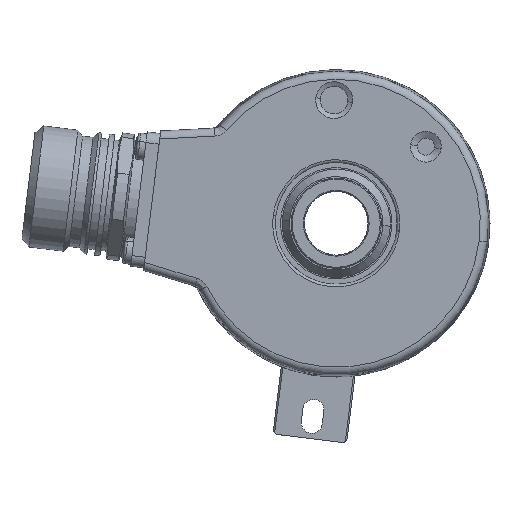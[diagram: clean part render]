
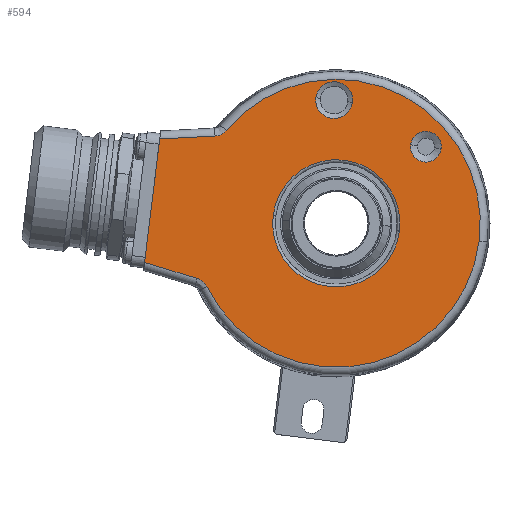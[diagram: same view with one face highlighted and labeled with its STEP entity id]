
A CAD part, left-side view. The second image highlights one B-rep face of the part: STEP entity #594.
In plain terms, the highlighted planar face has unit normal (-1, 0, 0).
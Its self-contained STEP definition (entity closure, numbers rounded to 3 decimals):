
#593 = EDGE_CURVE ( 'NONE', #5527, #5517, #6990, .T. ) ;
#594 = ADVANCED_FACE ( 'NONE', ( #6982, #6997, #6996, #6995 ), #7111, .F. ) ;
#595 = EDGE_LOOP ( 'NONE', ( #601, #602 ) ) ;
#601 = ORIENTED_EDGE ( 'NONE', *, *, #5538, .T. ) ;
#602 = ORIENTED_EDGE ( 'NONE', *, *, #593, .T. ) ;
#603 = EDGE_LOOP ( 'NONE', ( #604, #837 ) ) ;
#604 = ORIENTED_EDGE ( 'NONE', *, *, #5045, .T. ) ;
#664 = EDGE_LOOP ( 'NONE', ( #665, #666, #667, #669, #670, #671, #672 ) ) ;
#665 = ORIENTED_EDGE ( 'NONE', *, *, #1430, .F. ) ;
#666 = ORIENTED_EDGE ( 'NONE', *, *, #5097, .T. ) ;
#667 = ORIENTED_EDGE ( 'NONE', *, *, #668, .F. ) ;
#668 = EDGE_CURVE ( 'NONE', #1447, #5089, #7332, .T. ) ;
#669 = ORIENTED_EDGE ( 'NONE', *, *, #1352, .T. ) ;
#670 = ORIENTED_EDGE ( 'NONE', *, *, #1351, .F. ) ;
#671 = ORIENTED_EDGE ( 'NONE', *, *, #1416, .T. ) ;
#672 = ORIENTED_EDGE ( 'NONE', *, *, #6920, .T. ) ;
#720 = EDGE_LOOP ( 'NONE', ( #721, #722 ) ) ;
#721 = ORIENTED_EDGE ( 'NONE', *, *, #6923, .T. ) ;
#722 = ORIENTED_EDGE ( 'NONE', *, *, #734, .T. ) ;
#725 = EDGE_CURVE ( 'NONE', #5041, #5046, #20706, .T. ) ;
#734 = EDGE_CURVE ( 'NONE', #6911, #6924, #20755, .T. ) ;
#837 = ORIENTED_EDGE ( 'NONE', *, *, #725, .T. ) ;
#1349 = VERTEX_POINT ( 'NONE', #12530 ) ;
#1351 = EDGE_CURVE ( 'NONE', #1349, #1386, #12528, .T. ) ;
#1352 = EDGE_CURVE ( 'NONE', #1447, #1386, #12529, .T. ) ;
#1386 = VERTEX_POINT ( 'NONE', #12679 ) ;
#1416 = EDGE_CURVE ( 'NONE', #1349, #6921, #12789, .T. ) ;
#1430 = EDGE_CURVE ( 'NONE', #6943, #6933, #12804, .T. ) ;
#1447 = VERTEX_POINT ( 'NONE', #12865 ) ;
#5041 = VERTEX_POINT ( 'NONE', #17821 ) ;
#5045 = EDGE_CURVE ( 'NONE', #5046, #5041, #17820, .T. ) ;
#5046 = VERTEX_POINT ( 'NONE', #17815 ) ;
#5089 = VERTEX_POINT ( 'NONE', #17947 ) ;
#5097 = EDGE_CURVE ( 'NONE', #6943, #5089, #17985, .T. ) ;
#5517 = VERTEX_POINT ( 'NONE', #19336 ) ;
#5527 = VERTEX_POINT ( 'NONE', #19377 ) ;
#5538 = EDGE_CURVE ( 'NONE', #5517, #5527, #19396, .T. ) ;
#6911 = VERTEX_POINT ( 'NONE', #10403 ) ;
#6920 = EDGE_CURVE ( 'NONE', #6921, #6933, #10465, .T. ) ;
#6921 = VERTEX_POINT ( 'NONE', #10460 ) ;
#6923 = EDGE_CURVE ( 'NONE', #6924, #6911, #10515, .T. ) ;
#6924 = VERTEX_POINT ( 'NONE', #10510 ) ;
#6933 = VERTEX_POINT ( 'NONE', #10539 ) ;
#6943 = VERTEX_POINT ( 'NONE', #10528 ) ;
#6981 = AXIS2_PLACEMENT_3D ( 'NONE', #7000, #6999, #6998 ) ;
#6982 = FACE_BOUND ( 'NONE', #595, .T. ) ;
#6990 = CIRCLE ( 'NONE', #6981, 2.899 ) ;
#6995 = FACE_OUTER_BOUND ( 'NONE', #664, .T. ) ;
#6996 = FACE_BOUND ( 'NONE', #720, .T. ) ;
#6997 = FACE_BOUND ( 'NONE', #603, .T. ) ;
#6998 = DIRECTION ( 'NONE',  ( 0., -0.993, -0.122 ) ) ;
#6999 = DIRECTION ( 'NONE',  ( 1., 0., 0. ) ) ;
#7000 = CARTESIAN_POINT ( 'NONE',  ( -19., -16.919, 14.45 ) ) ;
#7098 = DIRECTION ( 'NONE',  ( 1., 0., 0. ) ) ;
#7099 = CARTESIAN_POINT ( 'NONE',  ( -19., 0., 0. ) ) ;
#7104 = DIRECTION ( 'NONE',  ( 0., -0.993, -0.122 ) ) ;
#7111 = PLANE ( 'NONE',  #7117 ) ;
#7117 = AXIS2_PLACEMENT_3D ( 'NONE', #7099, #7098, #7104 ) ;
#7329 = DIRECTION ( 'NONE',  ( 0., -0.122, 0.993 ) ) ;
#7330 = VECTOR ( 'NONE', #7329, 1000. ) ;
#7331 = CARTESIAN_POINT ( 'NONE',  ( -19., 36.354, -8.886 ) ) ;
#7332 = LINE ( 'NONE', #7331, #7330 ) ;
#10403 = CARTESIAN_POINT ( 'NONE',  ( -19., 11.911, 1.462 ) ) ;
#10460 = CARTESIAN_POINT ( 'NONE',  ( -19., -26.97, -3.312 ) ) ;
#10461 = DIRECTION ( 'NONE',  ( 0., -0.993, -0.122 ) ) ;
#10462 = DIRECTION ( 'NONE',  ( -1., 0., 0. ) ) ;
#10463 = CARTESIAN_POINT ( 'NONE',  ( -19., 0., 0. ) ) ;
#10464 = AXIS2_PLACEMENT_3D ( 'NONE', #10463, #10462, #10461 ) ;
#10465 = CIRCLE ( 'NONE', #10464, 27.173 ) ;
#10510 = CARTESIAN_POINT ( 'NONE',  ( -19., -11.911, -1.462 ) ) ;
#10511 = DIRECTION ( 'NONE',  ( 0., -0.993, -0.122 ) ) ;
#10512 = DIRECTION ( 'NONE',  ( 1., 0., 0. ) ) ;
#10513 = CARTESIAN_POINT ( 'NONE',  ( -19., 0., 0. ) ) ;
#10514 = AXIS2_PLACEMENT_3D ( 'NONE', #10513, #10512, #10511 ) ;
#10515 = CIRCLE ( 'NONE', #10514, 12. ) ;
#10528 = CARTESIAN_POINT ( 'NONE',  ( -19., 22.914, 16.45 ) ) ;
#10539 = CARTESIAN_POINT ( 'NONE',  ( -19., 20.777, 17.512 ) ) ;
#12528 = B_SPLINE_CURVE_WITH_KNOTS ( 'NONE', 3,
 ( #12580, #12579, #12578, #12577, #12576, #12575, #12574, #12573, #12572, #12571 ),
 .UNSPECIFIED., .F., .F.,
 ( 4, 2, 2, 2, 4 ),
 ( 0., 0.001, 0.001, 0.002, 0.002 ),
 .UNSPECIFIED. ) ;
#12529 = LINE ( 'NONE', #12583, #12582 ) ;
#12530 = CARTESIAN_POINT ( 'NONE',  ( -19., 24.396, -11.966 ) ) ;
#12571 = CARTESIAN_POINT ( 'NONE',  ( -19., 26.213, -10.418 ) ) ;
#12572 = CARTESIAN_POINT ( 'NONE',  ( -19., 26.016, -10.478 ) ) ;
#12573 = CARTESIAN_POINT ( 'NONE',  ( -19., 25.828, -10.557 ) ) ;
#12574 = CARTESIAN_POINT ( 'NONE',  ( -19., 25.471, -10.753 ) ) ;
#12575 = CARTESIAN_POINT ( 'NONE',  ( -19., 25.3, -10.87 ) ) ;
#12576 = CARTESIAN_POINT ( 'NONE',  ( -19., 24.989, -11.135 ) ) ;
#12577 = CARTESIAN_POINT ( 'NONE',  ( -19., 24.848, -11.282 ) ) ;
#12578 = CARTESIAN_POINT ( 'NONE',  ( -19., 24.597, -11.605 ) ) ;
#12579 = CARTESIAN_POINT ( 'NONE',  ( -19., 24.487, -11.781 ) ) ;
#12580 = CARTESIAN_POINT ( 'NONE',  ( -19., 24.396, -11.966 ) ) ;
#12581 = DIRECTION ( 'NONE',  ( 0., -0.956, -0.292 ) ) ;
#12582 = VECTOR ( 'NONE', #12581, 1000. ) ;
#12583 = CARTESIAN_POINT ( 'NONE',  ( -19., 25.556, -10.618 ) ) ;
#12679 = CARTESIAN_POINT ( 'NONE',  ( -19., 26.213, -10.418 ) ) ;
#12785 = DIRECTION ( 'NONE',  ( 0., -0.993, -0.122 ) ) ;
#12786 = DIRECTION ( 'NONE',  ( -1., 0., 0. ) ) ;
#12787 = CARTESIAN_POINT ( 'NONE',  ( -19., 0., 0. ) ) ;
#12788 = AXIS2_PLACEMENT_3D ( 'NONE', #12787, #12786, #12785 ) ;
#12789 = CIRCLE ( 'NONE', #12788, 27.173 ) ;
#12793 = CARTESIAN_POINT ( 'NONE',  ( -19., 20.777, 17.512 ) ) ;
#12794 = CARTESIAN_POINT ( 'NONE',  ( -19., 20.91, 17.355 ) ) ;
#12795 = CARTESIAN_POINT ( 'NONE',  ( -19., 21.056, 17.213 ) ) ;
#12796 = CARTESIAN_POINT ( 'NONE',  ( -19., 21.376, 16.962 ) ) ;
#12797 = CARTESIAN_POINT ( 'NONE',  ( -19., 21.552, 16.851 ) ) ;
#12798 = CARTESIAN_POINT ( 'NONE',  ( -19., 21.917, 16.669 ) ) ;
#12799 = CARTESIAN_POINT ( 'NONE',  ( -19., 22.108, 16.597 ) ) ;
#12800 = CARTESIAN_POINT ( 'NONE',  ( -19., 22.503, 16.493 ) ) ;
#12801 = CARTESIAN_POINT ( 'NONE',  ( -19., 22.708, 16.461 ) ) ;
#12802 = CARTESIAN_POINT ( 'NONE',  ( -19., 22.914, 16.45 ) ) ;
#12804 = B_SPLINE_CURVE_WITH_KNOTS ( 'NONE', 3,
 ( #12802, #12801, #12800, #12799, #12798, #12797, #12796, #12795, #12794, #12793 ),
 .UNSPECIFIED., .F., .F.,
 ( 4, 2, 2, 2, 4 ),
 ( 0., 0.001, 0.001, 0.002, 0.002 ),
 .UNSPECIFIED. ) ;
#12865 = CARTESIAN_POINT ( 'NONE',  ( -19., 36.168, -7.374 ) ) ;
#17815 = CARTESIAN_POINT ( 'NONE',  ( -19., 3.846, 23.669 ) ) ;
#17816 = DIRECTION ( 'NONE',  ( 0., -0.993, -0.122 ) ) ;
#17817 = DIRECTION ( 'NONE',  ( 1., 0., 0. ) ) ;
#17818 = CARTESIAN_POINT ( 'NONE',  ( -19., 0.406, 23.246 ) ) ;
#17819 = AXIS2_PLACEMENT_3D ( 'NONE', #17818, #17817, #17816 ) ;
#17820 = CIRCLE ( 'NONE', #17819, 3.466 ) ;
#17821 = CARTESIAN_POINT ( 'NONE',  ( -19., -3.034, 22.824 ) ) ;
#17947 = CARTESIAN_POINT ( 'NONE',  ( -19., 33.31, 15.905 ) ) ;
#17975 = DIRECTION ( 'NONE',  ( 0., 0.999, -0.052 ) ) ;
#17976 = VECTOR ( 'NONE', #17975, 1000. ) ;
#17977 = CARTESIAN_POINT ( 'NONE',  ( -19., 33.046, 15.919 ) ) ;
#17985 = LINE ( 'NONE', #17977, #17976 ) ;
#19336 = CARTESIAN_POINT ( 'NONE',  ( -19., -14.042, 14.804 ) ) ;
#19377 = CARTESIAN_POINT ( 'NONE',  ( -19., -19.796, 14.097 ) ) ;
#19393 = DIRECTION ( 'NONE',  ( 0., -0.993, -0.122 ) ) ;
#19394 = DIRECTION ( 'NONE',  ( 1., 0., 0. ) ) ;
#19395 = AXIS2_PLACEMENT_3D ( 'NONE', #19407, #19394, #19393 ) ;
#19396 = CIRCLE ( 'NONE', #19395, 2.899 ) ;
#19407 = CARTESIAN_POINT ( 'NONE',  ( -19., -16.919, 14.45 ) ) ;
#20706 = CIRCLE ( 'NONE', #20710, 3.466 ) ;
#20707 = DIRECTION ( 'NONE',  ( 0., -0.993, -0.122 ) ) ;
#20708 = DIRECTION ( 'NONE',  ( 1., 0., 0. ) ) ;
#20709 = CARTESIAN_POINT ( 'NONE',  ( -19., 0.406, 23.246 ) ) ;
#20710 = AXIS2_PLACEMENT_3D ( 'NONE', #20709, #20708, #20707 ) ;
#20755 = CIRCLE ( 'NONE', #20759, 12. ) ;
#20756 = CARTESIAN_POINT ( 'NONE',  ( -19., 0., 0. ) ) ;
#20757 = DIRECTION ( 'NONE',  ( 0., -0.993, -0.122 ) ) ;
#20758 = DIRECTION ( 'NONE',  ( 1., 0., 0. ) ) ;
#20759 = AXIS2_PLACEMENT_3D ( 'NONE', #20756, #20758, #20757 ) ;
